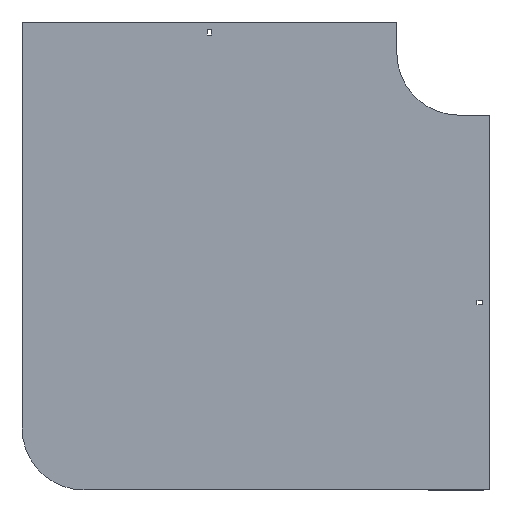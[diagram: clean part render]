
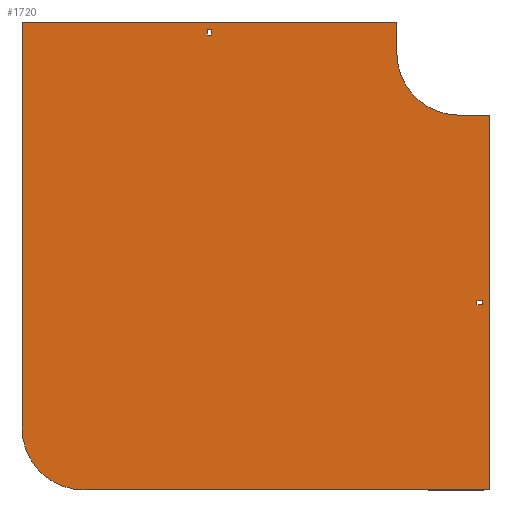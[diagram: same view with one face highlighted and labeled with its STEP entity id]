
A CAD part, front view. The second image highlights one B-rep face of the part: STEP entity #1720.
In plain terms, the highlighted planar face has unit normal (0, -1, 0).
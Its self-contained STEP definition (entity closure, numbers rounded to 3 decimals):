
#25 = VECTOR ( 'NONE', #1565, 1000. ) ;
#27 = PLANE ( 'NONE',  #1218 ) ;
#36 = VERTEX_POINT ( 'NONE', #1576 ) ;
#44 = CARTESIAN_POINT ( 'NONE',  ( -405.25, 0., 29. ) ) ;
#83 = DIRECTION ( 'NONE',  ( 1., 0., 0. ) ) ;
#84 = VERTEX_POINT ( 'NONE', #1754 ) ;
#90 = CARTESIAN_POINT ( 'NONE',  ( 50., 0., -704. ) ) ;
#92 = CARTESIAN_POINT ( 'NONE',  ( 29., 0., -398.75 ) ) ;
#101 = CARTESIAN_POINT ( 'NONE',  ( -704., 0., 50. ) ) ;
#107 = LINE ( 'NONE', #869, #849 ) ;
#109 = EDGE_CURVE ( 'NONE', #831, #267, #326, .T. ) ;
#112 = LINE ( 'NONE', #1308, #336 ) ;
#135 = EDGE_CURVE ( 'NONE', #36, #1414, #1160, .T. ) ;
#142 = EDGE_CURVE ( 'NONE', #1048, #735, #1031, .T. ) ;
#167 = DIRECTION ( 'NONE',  ( -1., 0., 0. ) ) ;
#175 = VECTOR ( 'NONE', #838, 1000. ) ;
#178 = EDGE_CURVE ( 'NONE', #735, #1943, #626, .T. ) ;
#185 = DIRECTION ( 'NONE',  ( 0., 0., 1. ) ) ;
#197 = ORIENTED_EDGE ( 'NONE', *, *, #1175, .F. ) ;
#199 = CARTESIAN_POINT ( 'NONE',  ( -704., 0., -604. ) ) ;
#225 = LINE ( 'NONE', #1297, #914 ) ;
#226 = ORIENTED_EDGE ( 'NONE', *, *, #1115, .T. ) ;
#254 = VECTOR ( 'NONE', #1438, 1000. ) ;
#267 = VERTEX_POINT ( 'NONE', #1821 ) ;
#281 = VECTOR ( 'NONE', #927, 1000. ) ;
#294 = EDGE_LOOP ( 'NONE', ( #731, #1155, #1066, #226 ) ) ;
#299 = CARTESIAN_POINT ( 'NONE',  ( 0., 0., -100. ) ) ;
#308 = ORIENTED_EDGE ( 'NONE', *, *, #1230, .F. ) ;
#320 = CARTESIAN_POINT ( 'NONE',  ( -405.25, 0., 29. ) ) ;
#326 = LINE ( 'NONE', #320, #281 ) ;
#335 = CARTESIAN_POINT ( 'NONE',  ( -704., 0., -604. ) ) ;
#336 = VECTOR ( 'NONE', #1315, 1000. ) ;
#360 = FACE_BOUND ( 'NONE', #1778, .T. ) ;
#371 = VECTOR ( 'NONE', #1076, 1000. ) ;
#397 = CARTESIAN_POINT ( 'NONE',  ( -398.75, 0., 29. ) ) ;
#407 = VERTEX_POINT ( 'NONE', #1463 ) ;
#411 = CARTESIAN_POINT ( 'NONE',  ( 50., 0., -100. ) ) ;
#413 = CARTESIAN_POINT ( 'NONE',  ( -604., 0., -704. ) ) ;
#414 = ORIENTED_EDGE ( 'NONE', *, *, #1476, .F. ) ;
#438 = VERTEX_POINT ( 'NONE', #397 ) ;
#442 = VECTOR ( 'NONE', #1933, 1000. ) ;
#445 = EDGE_LOOP ( 'NONE', ( #767, #1740, #1716, #197, #1653, #308, #1496, #1110 ) ) ;
#502 = FACE_BOUND ( 'NONE', #294, .T. ) ;
#513 = CARTESIAN_POINT ( 'NONE',  ( -100., 0., 50. ) ) ;
#519 = VERTEX_POINT ( 'NONE', #1758 ) ;
#567 = DIRECTION ( 'NONE',  ( 0., 0., 1. ) ) ;
#620 = LINE ( 'NONE', #788, #371 ) ;
#626 = LINE ( 'NONE', #335, #795 ) ;
#708 = LINE ( 'NONE', #1726, #1838 ) ;
#710 = LINE ( 'NONE', #101, #1257 ) ;
#717 = CARTESIAN_POINT ( 'NONE',  ( -604., 0., -604. ) ) ;
#729 = CARTESIAN_POINT ( 'NONE',  ( 0., 0., 0. ) ) ;
#731 = ORIENTED_EDGE ( 'NONE', *, *, #109, .T. ) ;
#735 = VERTEX_POINT ( 'NONE', #199 ) ;
#748 = AXIS2_PLACEMENT_3D ( 'NONE', #729, #1296, #1611 ) ;
#767 = ORIENTED_EDGE ( 'NONE', *, *, #1088, .F. ) ;
#781 = VECTOR ( 'NONE', #167, 1000. ) ;
#788 = CARTESIAN_POINT ( 'NONE',  ( -405.25, 0., 38. ) ) ;
#795 = VECTOR ( 'NONE', #185, 1000. ) ;
#827 = DIRECTION ( 'NONE',  ( 1., 0., 0. ) ) ;
#831 = VERTEX_POINT ( 'NONE', #44 ) ;
#838 = DIRECTION ( 'NONE',  ( 0., 0., 1. ) ) ;
#840 = CARTESIAN_POINT ( 'NONE',  ( -405.25, 0., 29. ) ) ;
#849 = VECTOR ( 'NONE', #1305, 1000. ) ;
#869 = CARTESIAN_POINT ( 'NONE',  ( 29., 0., -398.75 ) ) ;
#914 = VECTOR ( 'NONE', #827, 1000. ) ;
#927 = DIRECTION ( 'NONE',  ( 0., 0., 1. ) ) ;
#946 = FACE_OUTER_BOUND ( 'NONE', #445, .T. ) ;
#983 = CARTESIAN_POINT ( 'NONE',  ( 38., 0., -405.25 ) ) ;
#1031 = CIRCLE ( 'NONE', #1500, 100. ) ;
#1038 = ORIENTED_EDGE ( 'NONE', *, *, #1837, .F. ) ;
#1048 = VERTEX_POINT ( 'NONE', #413 ) ;
#1066 = ORIENTED_EDGE ( 'NONE', *, *, #1487, .T. ) ;
#1076 = DIRECTION ( 'NONE',  ( 1., 0., 0. ) ) ;
#1081 = VERTEX_POINT ( 'NONE', #92 ) ;
#1085 = EDGE_CURVE ( 'NONE', #1447, #519, #225, .T. ) ;
#1088 = EDGE_CURVE ( 'NONE', #1943, #1260, #710, .T. ) ;
#1106 = ORIENTED_EDGE ( 'NONE', *, *, #1503, .F. ) ;
#1110 = ORIENTED_EDGE ( 'NONE', *, *, #1256, .F. ) ;
#1115 = EDGE_CURVE ( 'NONE', #438, #831, #1135, .T. ) ;
#1117 = DIRECTION ( 'NONE',  ( 0., -1., 0. ) ) ;
#1135 = LINE ( 'NONE', #840, #254 ) ;
#1155 = ORIENTED_EDGE ( 'NONE', *, *, #1743, .T. ) ;
#1160 = LINE ( 'NONE', #411, #1586 ) ;
#1161 = DIRECTION ( 'NONE',  ( 0., 0., -1. ) ) ;
#1172 = ORIENTED_EDGE ( 'NONE', *, *, #1085, .F. ) ;
#1175 = EDGE_CURVE ( 'NONE', #1414, #1048, #1461, .T. ) ;
#1218 = AXIS2_PLACEMENT_3D ( 'NONE', #1676, #1117, #1707 ) ;
#1230 = EDGE_CURVE ( 'NONE', #1783, #36, #1645, .T. ) ;
#1236 = CARTESIAN_POINT ( 'NONE',  ( -398.75, 0., 38. ) ) ;
#1256 = EDGE_CURVE ( 'NONE', #1260, #407, #1944, .T. ) ;
#1257 = VECTOR ( 'NONE', #83, 1000. ) ;
#1260 = VERTEX_POINT ( 'NONE', #513 ) ;
#1296 = DIRECTION ( 'NONE',  ( 0., -1., 0. ) ) ;
#1297 = CARTESIAN_POINT ( 'NONE',  ( 29., 0., -405.25 ) ) ;
#1305 = DIRECTION ( 'NONE',  ( -1., 0., 0. ) ) ;
#1308 = CARTESIAN_POINT ( 'NONE',  ( 29., 0., -405.25 ) ) ;
#1315 = DIRECTION ( 'NONE',  ( 0., 0., -1. ) ) ;
#1317 = VERTEX_POINT ( 'NONE', #1236 ) ;
#1334 = DIRECTION ( 'NONE',  ( 0., 0., -1. ) ) ;
#1345 = CARTESIAN_POINT ( 'NONE',  ( -704., 0., 50. ) ) ;
#1414 = VERTEX_POINT ( 'NONE', #90 ) ;
#1438 = DIRECTION ( 'NONE',  ( -1., 0., 0. ) ) ;
#1441 = EDGE_CURVE ( 'NONE', #407, #1783, #1596, .T. ) ;
#1447 = VERTEX_POINT ( 'NONE', #1622 ) ;
#1461 = LINE ( 'NONE', #1915, #781 ) ;
#1463 = CARTESIAN_POINT ( 'NONE',  ( -100., 0., 0. ) ) ;
#1476 = EDGE_CURVE ( 'NONE', #1081, #1447, #112, .T. ) ;
#1487 = EDGE_CURVE ( 'NONE', #1317, #438, #708, .T. ) ;
#1496 = ORIENTED_EDGE ( 'NONE', *, *, #1441, .F. ) ;
#1500 = AXIS2_PLACEMENT_3D ( 'NONE', #717, #1922, #567 ) ;
#1503 = EDGE_CURVE ( 'NONE', #519, #84, #1911, .T. ) ;
#1528 = CARTESIAN_POINT ( 'NONE',  ( 0., 0., -100. ) ) ;
#1565 = DIRECTION ( 'NONE',  ( 0., 0., -1. ) ) ;
#1576 = CARTESIAN_POINT ( 'NONE',  ( 50., 0., -100. ) ) ;
#1586 = VECTOR ( 'NONE', #1334, 1000. ) ;
#1596 = CIRCLE ( 'NONE', #748, 100. ) ;
#1611 = DIRECTION ( 'NONE',  ( 0., 0., -1. ) ) ;
#1622 = CARTESIAN_POINT ( 'NONE',  ( 29., 0., -405.25 ) ) ;
#1645 = LINE ( 'NONE', #299, #442 ) ;
#1653 = ORIENTED_EDGE ( 'NONE', *, *, #135, .F. ) ;
#1676 = CARTESIAN_POINT ( 'NONE',  ( 0., 0., 0. ) ) ;
#1707 = DIRECTION ( 'NONE',  ( 0., 0., -1. ) ) ;
#1716 = ORIENTED_EDGE ( 'NONE', *, *, #142, .F. ) ;
#1720 = ADVANCED_FACE ( 'NONE', ( #502, #946, #360 ), #27, .T. ) ;
#1726 = CARTESIAN_POINT ( 'NONE',  ( -398.75, 0., 29. ) ) ;
#1740 = ORIENTED_EDGE ( 'NONE', *, *, #178, .F. ) ;
#1743 = EDGE_CURVE ( 'NONE', #267, #1317, #620, .T. ) ;
#1754 = CARTESIAN_POINT ( 'NONE',  ( 38., 0., -398.75 ) ) ;
#1758 = CARTESIAN_POINT ( 'NONE',  ( 38., 0., -405.25 ) ) ;
#1778 = EDGE_LOOP ( 'NONE', ( #1106, #1172, #414, #1038 ) ) ;
#1783 = VERTEX_POINT ( 'NONE', #1528 ) ;
#1821 = CARTESIAN_POINT ( 'NONE',  ( -405.25, 0., 38. ) ) ;
#1837 = EDGE_CURVE ( 'NONE', #84, #1081, #107, .T. ) ;
#1838 = VECTOR ( 'NONE', #1161, 1000. ) ;
#1859 = CARTESIAN_POINT ( 'NONE',  ( -100., 0., 50. ) ) ;
#1911 = LINE ( 'NONE', #983, #175 ) ;
#1915 = CARTESIAN_POINT ( 'NONE',  ( 50., 0., -704. ) ) ;
#1922 = DIRECTION ( 'NONE',  ( 0., 1., 0. ) ) ;
#1933 = DIRECTION ( 'NONE',  ( 1., 0., 0. ) ) ;
#1943 = VERTEX_POINT ( 'NONE', #1345 ) ;
#1944 = LINE ( 'NONE', #1859, #25 ) ;
